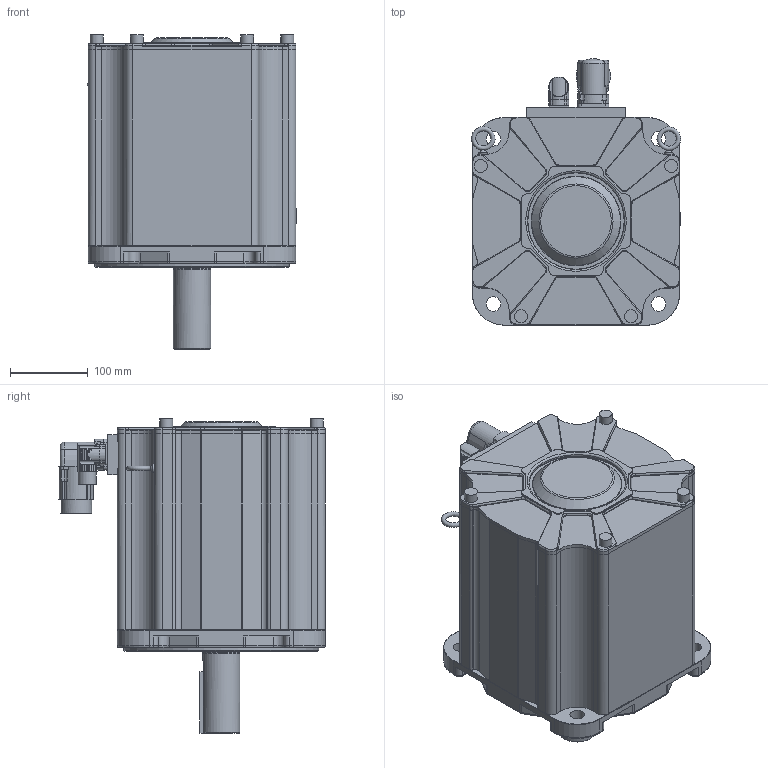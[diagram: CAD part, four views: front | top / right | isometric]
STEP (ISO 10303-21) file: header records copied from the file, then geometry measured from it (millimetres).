
FILE_DESCRIPTION((''),'2;1');
FILE_NAME('C:\CAD_work\Dummy_Modeling_Project_02-12-05\3D MODELS\MPP2706XXX_NPSN.stp','2006-02-03T10:43:21',('jevans'),(''),'Autodesk Inventor 10','Autodesk Inventor 10','');
FILE_SCHEMA(('AUTOMOTIVE_DESIGN { 1 0 10303 214 1 1 1 1 }'));
Length unit declared in the file: inch
Products named in the file (1): MPP270_MOTOR
Bounding box: 268.71 x 341.91 x 403.4 mm (x, y, z)
Volume: 17645396.9 mm3; surface area: 573012.9 mm2
Topology: 1 solids, 8 shells, 961 faces, 2362 edges, 1475 vertices
Faces by surface type: cylinder 404, plane 347, bspline 129, torus 65, cone 16
Full cylindrical faces by diameter (mm): 1.016 x17, 2 x2, 3.6 x4, 16.662 x4, 19.05 x1, 19.685 x1, 22.86 x1, 32.639 x1, 39.624 x1, 47.663 x1, 48.019 x1, 51.892 x1, 69.85 x1, 72.023 x1, 88.9 x1, 106.68 x1, 119.99 x1, 120 x1, 120.018 x1, 120.272 x2, 124.46 x1, 133.349 x1, 133.35 x1, 250.001 x1
Entity records: 32174 total; most frequent: CARTESIAN_POINT 10102, DIRECTION 4687, ORIENTED_EDGE 4484, EDGE_CURVE 2242, AXIS2_PLACEMENT_3D 1825, VERTEX_POINT 1440, EDGE_LOOP 1116, VECTOR 1037
